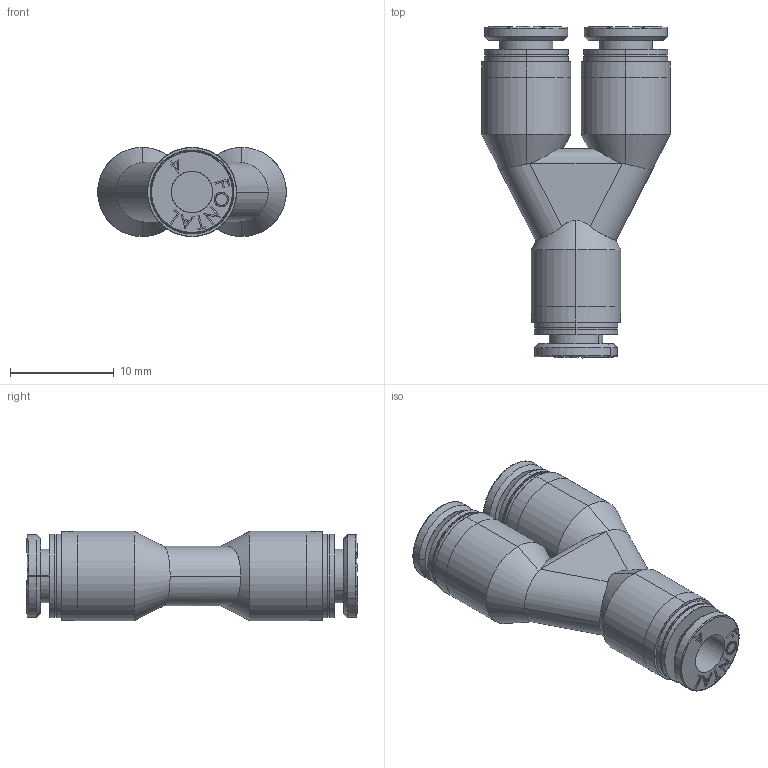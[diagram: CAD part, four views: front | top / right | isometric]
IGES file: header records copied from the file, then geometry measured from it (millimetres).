
Start section: SolidWorks IGES file using analytic representation for surfaces
Global section: file name: D:\Custom\3D繪製\ADDITIONAL\FPY\FPY4.IGS,1; native system: 5HSolidWorks 2014; preprocessor: SolidWorks 2014; author: Chieh_Lu; date: 160115.051012; units: millimetre
Bounding box: 18.2 x 32 x 8.6 mm (x, y, z)
Surface area: 2312.4 mm2 (no closed solid volume)
Topology: 0 solids, 0 shells, 342 faces, 3740 edges, 3740 vertices
Faces by surface type: bspline 264, revolution 78
